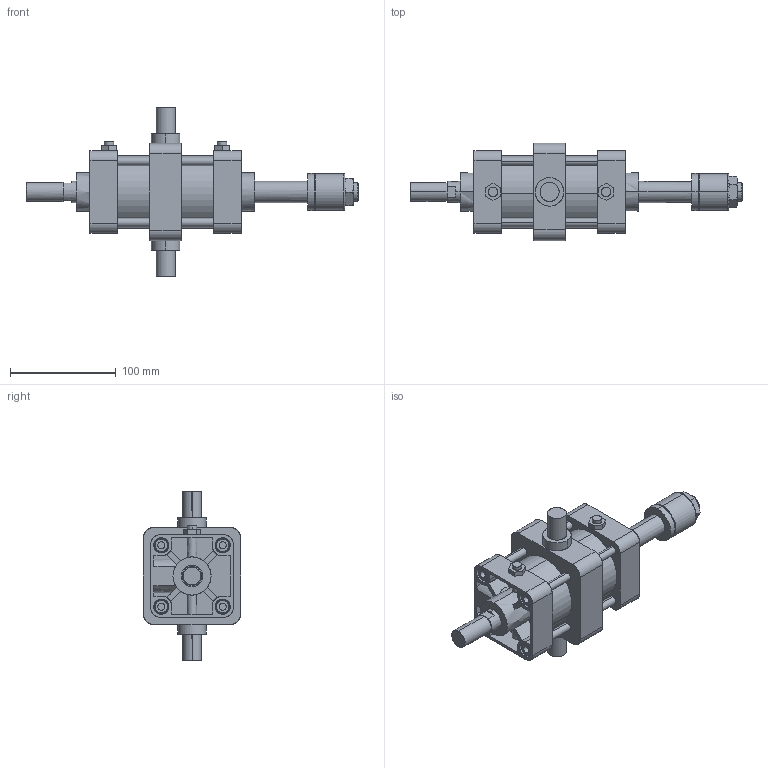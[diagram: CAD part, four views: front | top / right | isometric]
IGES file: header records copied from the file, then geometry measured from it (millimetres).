
Start section: SolidWorks IGES file using analytic representation for surfaces
Global section: file name: C:\Users\Toshiba\Desktop\KGA7-63#-50-T.IGS; native system: SolidWorks 2014; preprocessor: SolidWorks 2014; author: Toshiba; date: 160414.155235; units: millimetre
Bounding box: 314 x 92 x 160 mm (x, y, z)
Surface area: 168919.8 mm2 (no closed solid volume)
Topology: 0 solids, 0 shells, 401 faces, 6870 edges, 6866 vertices
Faces by surface type: bspline 215, revolution 186
